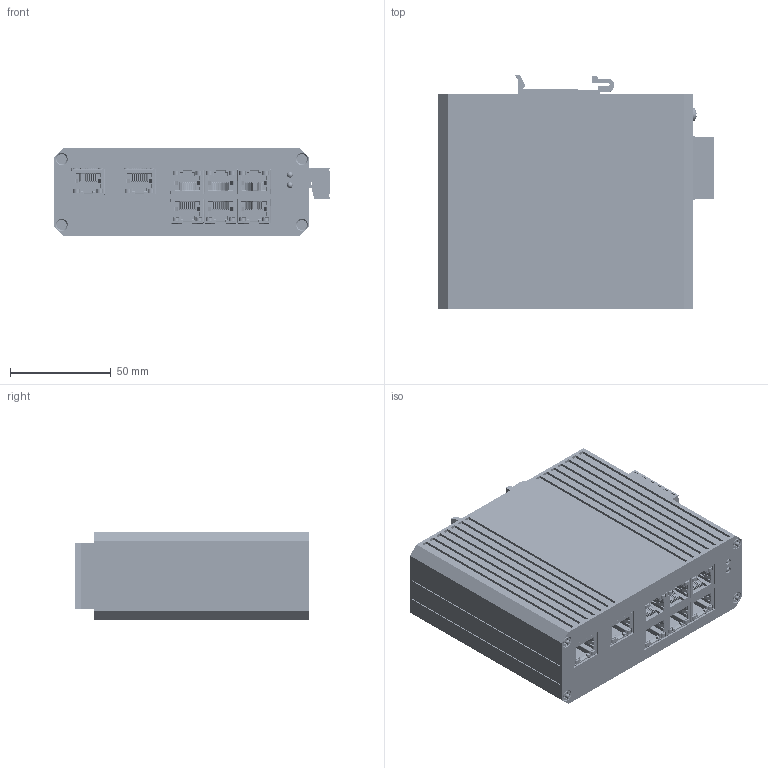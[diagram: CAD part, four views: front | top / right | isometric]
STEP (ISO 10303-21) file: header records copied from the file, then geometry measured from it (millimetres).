
FILE_DESCRIPTION((''),'2;1');
FILE_NAME('IES-1080-S-ALL_ASM','2023-02-10T22:51:11',('Administrator'),('yulong DESIGN'),'CREO PARAMETRIC BY PTC INC, 2021023','CREO PARAMETRIC BY PTC INC, 2021023','');
FILE_SCHEMA(('AUTOMOTIVE_DESIGN { 1 0 10303 214 1 1 1 1 }'));
Products named in the file (4): IES-1080-S; MSBR-1_6; 1080-S-CT; IES-1080-S-ALL_ASM
Assembly tree (10 placements, depth 2):
  IES-1080-S-ALL_ASM
    IES-1080-S
    MSBR-1_6  x8
    1080-S-CT
Bounding box: 136.2 x 115.67 x 43.5 mm (x, y, z)
Volume: 561939.1 mm3; surface area: 109839.8 mm2
Topology: 10 solids, 10 shells, 8709 faces, 24217 edges, 15408 vertices
Faces by surface type: plane 5555, cylinder 2344, torus 512, bspline 146, cone 84, sphere 68
Entity records: 73152 total; most frequent: CARTESIAN_POINT 11681, ORIENTED_EDGE 10078, DIRECTION 9769, EDGE_CURVE 5039, VECTOR 3801, LINE 3801, VERTEX_POINT 3256, PRESENTATION_STYLE_ASSIGNMENT 3220
